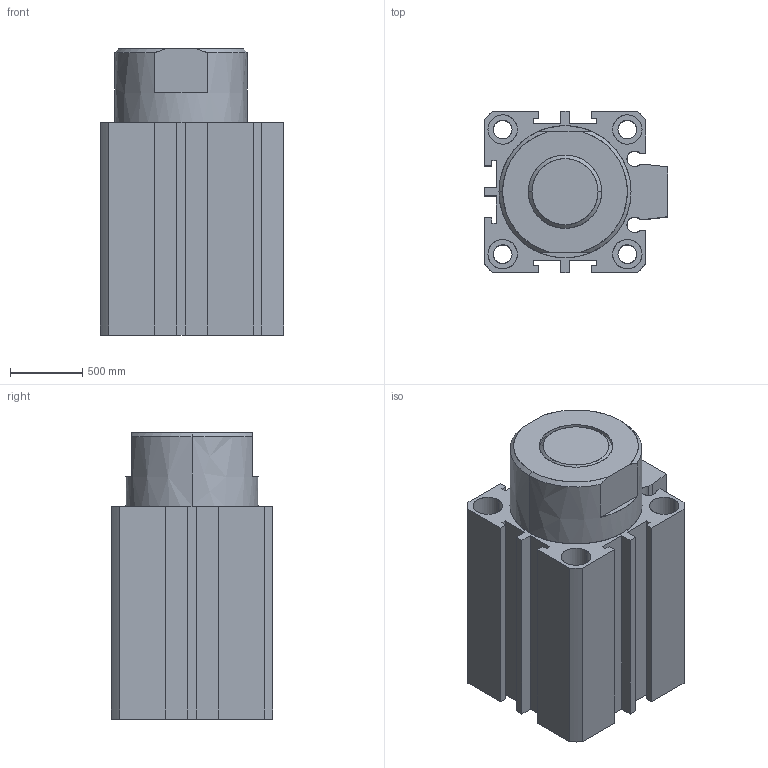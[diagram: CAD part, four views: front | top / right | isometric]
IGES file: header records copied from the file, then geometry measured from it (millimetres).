
Start section: SolidWorks IGES file using analytic representation for surfaces
Global section: file name: C:\Documents and Settings\Standard\Bureau\NM pieces 3d\ELO 32 10 tige entrée.IGS; native system: SolidWorks 2007; preprocessor: SolidWorks 2007; author: Standard; date: 080328.095044; units: inch
Bounding box: 1270 x 1117.6 x 1981.2 mm (x, y, z)
Surface area: 21130301 mm2 (no closed solid volume)
Topology: 0 solids, 0 shells, 528 faces, 13314 edges, 13351 vertices
Faces by surface type: bspline 481, revolution 47
